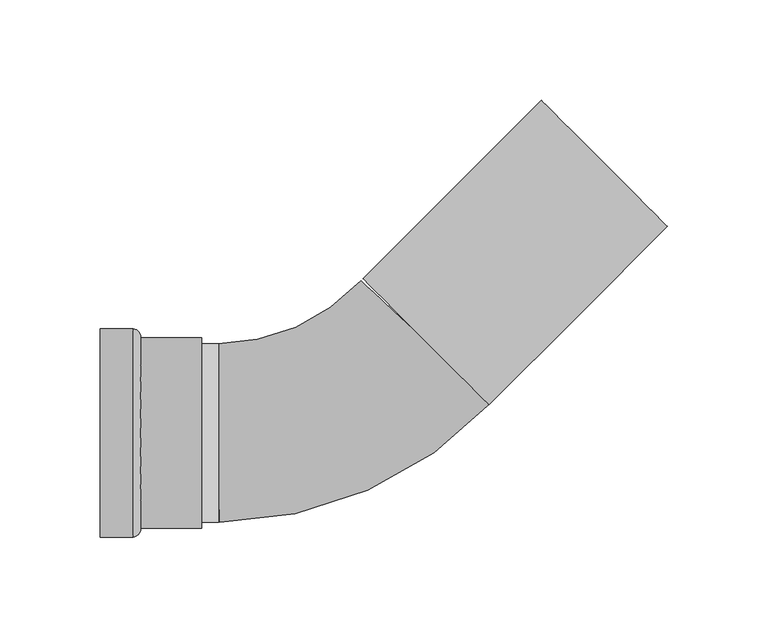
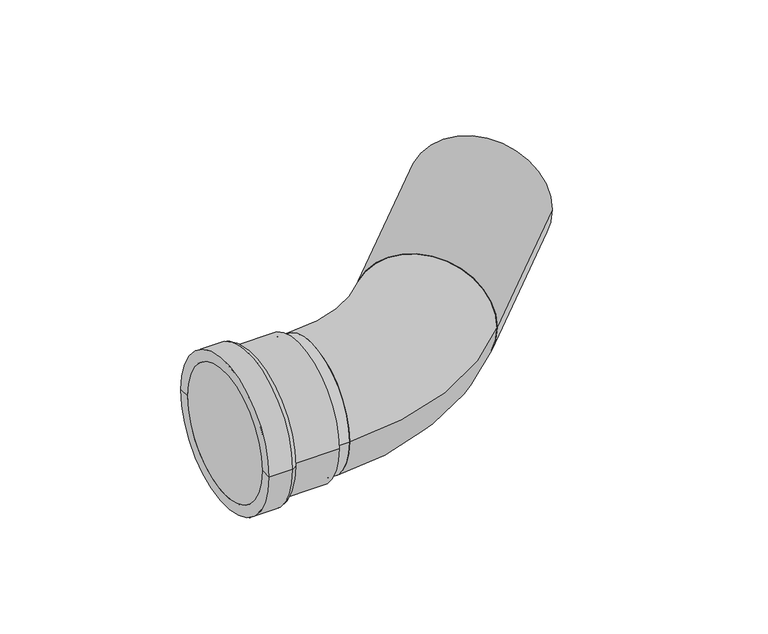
"""IFC4 building model written with IfcOpenShell, lengths in millimetres: pipe fitting geometry, VALTEC_VTi.958.I_Угольник 45° (раструб–труба) нержавеющая сталь. : VTi.958.I."""

from ifc_helpers import new_model, si_unit, point, frame, origin, origin_2d, place, context, project, spatial, polyline, circle_curve, ellipse_curve, trimmed, segment, composite_curve, outline, extrude, source, transform, mapped, element, save
from ifc_brep_helpers import plane_surface, cylinder_surface, revolved_surface, advanced_brep


def pipe_fitting_112eb731(model_context):
    return source(origin(), model_context, "Body", "SolidModel", [
        advanced_brep(
        [(-117.0, -44.45, 0.0), (-117.0, 44.45, 0.0), (-117.0, 52.0, 0.0), (-117.0, -52.0, 0.0), (-66.5, -44.45, 0.0), (-66.5, 44.45, 0.0), (-66.5, -47.5, 0.0), (-66.5, 47.5, 0.0), (-96.89, -47.5, 0.0), (-96.89, 47.5, 0.0), (-100.6, -52.0, 0.0), (-100.6, 52.0, 0.0)],
        [
            (0, 1, circle_curve(frame((-117.0, 0.0, 0.0), z_axis=(1.0, 0.0, 0.0), x_axis=(0.0, 1.0, 0.0)), 44.45)),
            (1, 2),
            (2, 3, circle_curve(frame((-117.0, 0.0, 0.0), z_axis=(-1.0, 0.0, 0.0), x_axis=(0.0, 1.0, 0.0)), 52.0)),
            (3, 0),
            (1, 0, circle_curve(frame((-117.0, 0.0, 0.0), z_axis=(1.0, 0.0, 0.0), x_axis=(0.0, 1.0, 0.0)), 44.45)),
            (3, 2, circle_curve(frame((-117.0, 0.0, 0.0), z_axis=(-1.0, 0.0, 0.0), x_axis=(0.0, 1.0, 0.0)), 52.0)),
            (4, 5, circle_curve(frame((-66.5, 0.0, 0.0), z_axis=(1.0, 0.0, 0.0), x_axis=(0.0, 1.0, 0.0)), 44.45)),
            (5, 1),
            (0, 4),
            (5, 4, circle_curve(frame((-66.5, 0.0, 0.0), z_axis=(1.0, 0.0, 0.0), x_axis=(0.0, 1.0, 0.0)), 44.45)),
            (6, 7, circle_curve(frame((-66.5, 0.0, 0.0), z_axis=(1.0, 0.0, 0.0), x_axis=(0.0, 1.0, 0.0)), 47.5)),
            (7, 5),
            (4, 6),
            (7, 6, circle_curve(frame((-66.5, 0.0, 0.0), z_axis=(1.0, 0.0, 0.0), x_axis=(0.0, 1.0, 0.0)), 47.5)),
            (8, 9, circle_curve(frame((-96.89, 0.0, 0.0), z_axis=(1.0, 0.0, 0.0), x_axis=(0.0, 1.0, 0.0)), 47.5)),
            (9, 7),
            (6, 8),
            (9, 8, circle_curve(frame((-96.89, 0.0, 0.0), z_axis=(1.0, 0.0, 0.0), x_axis=(0.0, 1.0, 0.0)), 47.5)),
            (10, 11, circle_curve(frame((-100.6, 0.0, 0.0), z_axis=(1.0, 0.0, 0.0), x_axis=(0.0, 1.0, 0.0)), 52.0)),
            (11, 9, circle_curve(frame((-101.337843, 47.612345, 0.0), z_axis=(0.0, 0.0, -1.0), x_axis=(1.0, 0.0, 0.0)), 4.4492616)),
            (8, 10, circle_curve(frame((-101.337843, -47.612345, 0.0), z_axis=(0.0, 0.0, -1.0), x_axis=(1.0, 0.0, 0.0)), 4.4492616)),
            (11, 10, circle_curve(frame((-100.6, 0.0, 0.0), z_axis=(1.0, 0.0, 0.0), x_axis=(0.0, 1.0, 0.0)), 52.0)),
            (2, 11),
            (10, 3),
        ],
        [
            plane_surface(frame((-117.0, 0.0, 0.0), z_axis=(-1.0, 0.0, 0.0), x_axis=(0.0, 1.0, 0.0))),
            revolved_surface(polyline([(-117.0, 44.45, 0.0), (-66.5, 44.45, 0.0)]), (-87.2906392, 0.0, 0.0), (-1.0, 0.0, 0.0)),
            plane_surface(frame((-66.5, 0.0, 0.0), z_axis=(1.0, 0.0, 0.0), x_axis=(0.0, 1.0, 0.0))),
            cylinder_surface(frame((-87.2906392, 0.0, 0.0), z_axis=(-1.0, 0.0, 0.0), x_axis=(0.0, 1.0, 0.0)), 47.5),
            revolved_surface(trimmed(ellipse_curve(frame((-101.337843, 47.612345, 0.0), z_axis=(0.0, 0.0, 1.0), x_axis=(1.0, 0.0, 0.0)), 4.4492616, 4.4492616), [point((-96.89, 47.5, 0.0))], [point((-100.6, 52.0, 0.0))], True, "CARTESIAN"), (-87.2906392, 0.0, 0.0), (-1.0, 0.0, 0.0)),
            cylinder_surface(frame((-87.2906392, 0.0, 0.0), z_axis=(-1.0, 0.0, 0.0), x_axis=(0.0, 1.0, 0.0)), 52.0),
        ],
        [
            (0, [[1, 2, 3, 4]]),
            (0, [[5, -4, 6, -2]]),
            (1, [[7, 8, -1, 9]]),
            (1, [[10, -9, -5, -8]]),
            (2, [[11, 12, -7, 13]]),
            (2, [[14, -13, -10, -12]]),
            (3, [[15, 16, -11, 17]]),
            (3, [[18, -17, -14, -16]]),
            (4, [[19, 20, -15, 21]]),
            (4, [[22, -21, -18, -20]]),
            (5, [[-3, 23, -19, 24]]),
            (5, [[-6, -24, -22, -23]]),
        ],
    ),
        extrude(outline(composite_curve([segment(trimmed(circle_curve(origin_2d(), 44.45), [point((-44.45, 0.0))], [point((44.45, 0.0))], False, "CARTESIAN"), True, "CONTINUOUS"), segment(trimmed(circle_curve(origin_2d(), 44.45), [point((44.45, 0.0))], [point((-44.45, 0.0))], False, "CARTESIAN"), True, "CONTINUOUS")], self_intersect=False)), frame((-117.0, 0.0, 0.0), z_axis=(1.0, 0.0, 0.0), x_axis=(0.0, 1.0, 0.0)), (0.0, 0.0, 1.0), 59.085),
        extrude(outline(composite_curve([segment(trimmed(circle_curve(origin_2d(), 44.45), [point((0.0, -44.45))], [point((0.0, 44.45))], False, "CARTESIAN"), True, "CONTINUOUS"), segment(trimmed(circle_curve(origin_2d(), 44.45), [point((0.0, 44.45))], [point((0.0, -44.45))], False, "CARTESIAN"), True, "CONTINUOUS")], self_intersect=False)), frame((45.5023214, 45.5023214, 0.0), z_axis=(0.707106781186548, 0.707106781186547, 0.0), x_axis=(0.0, 0.0, 1.0)), (0.0, 0.0, 1.0), 125.65),
        advanced_brep(
        [(-57.5250741, -44.4482897, 0.0), (-58.3049259, 44.4482897, 0.0), (78.0084344, 15.1847503, 0.0), (12.9962084, 75.8198925, 0.0)],
        [
            (0, 1, circle_curve(frame((-57.915, 0.0, 0.0), z_axis=(-0.9999615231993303, -0.008772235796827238, 0.0), x_axis=(-0.008772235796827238, 0.9999615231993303, 0.0)), 44.45)),
            (1, 0, circle_curve(frame((-57.915, 0.0, 0.0), z_axis=(-0.9999615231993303, -0.008772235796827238, 0.0), x_axis=(-0.008772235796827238, 0.9999615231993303, 0.0)), 44.45)),
            (2, 3, circle_curve(frame((45.5023214, 45.5023214, 0.0), z_axis=(0.682060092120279, 0.7312961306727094, 0.0), x_axis=(-0.7312961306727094, 0.682060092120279, 0.0)), 44.45)),
            (3, 2, circle_curve(frame((45.5023214, 45.5023214, 0.0), z_axis=(0.682060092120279, 0.7312961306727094, 0.0), x_axis=(-0.7312961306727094, 0.682060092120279, 0.0)), 44.45)),
            (3, 1, circle_curve(frame((-59.1706002, 143.12792, 0.0), z_axis=(0.0, 0.0, -1.0), x_axis=(0.008772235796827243, -0.9999615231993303, 0.0)), 98.6834273)),
            (0, 2, circle_curve(frame((-59.1706002, 143.12792, 0.0), z_axis=(0.0, 0.0, 1.0), x_axis=(0.008772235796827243, -0.9999615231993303, 0.0)), 187.5834273)),
        ],
        [
            plane_surface(frame((-57.915, 0.0, 0.0), z_axis=(-0.9999615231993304, -0.008772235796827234, 0.0), x_axis=(0.0, 0.0, 1.0))),
            plane_surface(frame((45.5023214, 45.5023214, 0.0), z_axis=(0.6820600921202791, 0.7312961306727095, 0.0), x_axis=(0.0, 0.0, 1.0))),
            revolved_surface(trimmed(ellipse_curve(frame((-57.915, 0.0, 0.0), z_axis=(-0.9999615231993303, -0.008772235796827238, 0.0), x_axis=(-0.008772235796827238, 0.9999615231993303, 0.0)), 44.45, 44.45), [point((-57.5250741, -44.4482897, 0.0))], [point((-58.3049259, 44.4482897, 0.0))], True, "CARTESIAN"), (-59.1706002, 143.12792, 0.0), (0.0, 0.0, 1.0)),
            revolved_surface(trimmed(ellipse_curve(frame((-57.915, 0.0, 0.0), z_axis=(-0.9999615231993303, -0.008772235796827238, 0.0), x_axis=(-0.008772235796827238, 0.9999615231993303, 0.0)), 44.45, 44.45), [point((-58.3049259, 44.4482897, 0.0))], [point((-57.5250741, -44.4482897, 0.0))], True, "CARTESIAN"), (-59.1706002, 143.12792, 0.0), (0.0, 0.0, 1.0)),
        ],
        [
            (0, [[1, 2]]),
            (1, [[3, 4]]),
            (2, [[5, -1, 6, -4]]),
            (3, [[-6, -2, -5, -3]]),
        ],
    ),
        extrude(outline(composite_curve([segment(trimmed(circle_curve(origin_2d(), 44.45), [point((-44.45, 0.0))], [point((44.45, 0.0))], False, "CARTESIAN"), True, "CONTINUOUS"), segment(trimmed(circle_curve(origin_2d(), 44.45), [point((44.45, 0.0))], [point((-44.45, 0.0))], False, "CARTESIAN"), True, "CONTINUOUS")], self_intersect=False)), frame((-117.0, 0.0, 0.0), z_axis=(1.0, 0.0, 0.0), x_axis=(0.0, 1.0, 0.0)), (0.0, 0.0, 1.0), 52.65),
    ])


if __name__ == "__main__":
    model = new_model("IFC4")
    model_context = context("Model", 3, world=origin())
    ifc_project = project(units=[si_unit("LENGTHUNIT", "METRE", prefix="MILLI")], contexts=[model_context])
    site = spatial("IfcSite", under=ifc_project)
    building = spatial("IfcBuilding", under=site)
    placement = place(None, origin())
    pipe_fitting_shape = pipe_fitting_112eb731(model_context)
    element("IfcPipeFitting", 1, ObjectType="VALTEC_VTi.958.I_Угольник 45° (раструб–труба) нержавеющая сталь. : VTi.958.I", at=placement, inside=building, context=model_context, shape_type="MappedRepresentation", body=[
        mapped(pipe_fitting_shape, transform((0.0, 0.0, 0.0), x_axis=(1.0, 0.0, 0.0), y_axis=(0.0, 1.0, 0.0), z_axis=(0.0, 0.0, 1.0))),
    ])
    save(model, "model.ifc")
